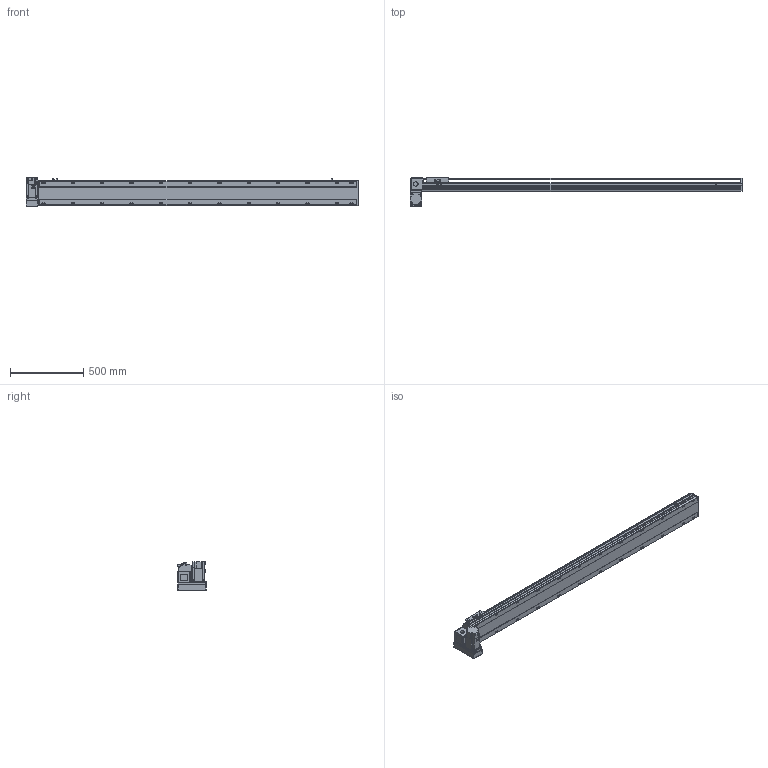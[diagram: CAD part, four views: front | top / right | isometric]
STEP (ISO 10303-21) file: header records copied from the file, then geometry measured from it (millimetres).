
FILE_DESCRIPTION( ( 'STEP AP214' ), '1' );
FILE_NAME( 'x:/temp/worker_4/temp/exporttempdir_2248_351_rSGs7/format_0/PBS170-P40-S1900-LD-T75-C1-N(0).stp', '2022-06-07T07:54:43', ( 'License CC BY-ND 4.0' ), ( 'CADENAS' ), ' ', 'PARTsolutions', ' ' );
FILE_SCHEMA( ( 'AUTOMOTIVE_DESIGN { 1 0 10303 214 1 1 1 1 }' ) );
Length unit declared in the file: millimetre
Products named in the file (7): PBS170-P40-S1900-LD-T75-C1-N(0); _PBS170-S1900()_body; _PBS170T-LD_motors; _T75-p1; _PBS170_sliser; _PBS170_plant; _PBS170_sensor
Assembly tree (8 placements, depth 2):
  PBS170-P40-S1900-LD-T75-C1-N(0)
    _PBS170-S1900()_body
    _PBS170T-LD_motors
    _T75-p1
    _PBS170_sliser
    _PBS170_plant
    _PBS170_sensor  x3
Bounding box: 2263 x 201 x 197.3 mm (x, y, z)
Volume: 17402113.4 mm3; surface area: 2214293.6 mm2
Topology: 8 solids, 8 shells, 1146 faces, 3035 edges, 1978 vertices
Faces by surface type: plane 711, cylinder 371, cone 54, sphere 8, torus 2
Full cylindrical faces by diameter (mm): 3.242 x4, 4 x2, 4.4 x4, 4.5 x6, 4.917 x4, 6 x9, 6.647 x32, 7 x2, 7.5 x4, 8 x8, 8.5 x24, 10 x4, 10.5 x24, 11 x2, 30 x2, 40 x1, 70 x1
Entity records: 42308 total; most frequent: CARTESIAN_POINT 6893, DIRECTION 5580, ORIENTED_EDGE 5268, EDGE_CURVE 2634, AXIS2_PLACEMENT_3D 1957, VERTEX_POINT 1826, LINE 1666, VECTOR 1666
